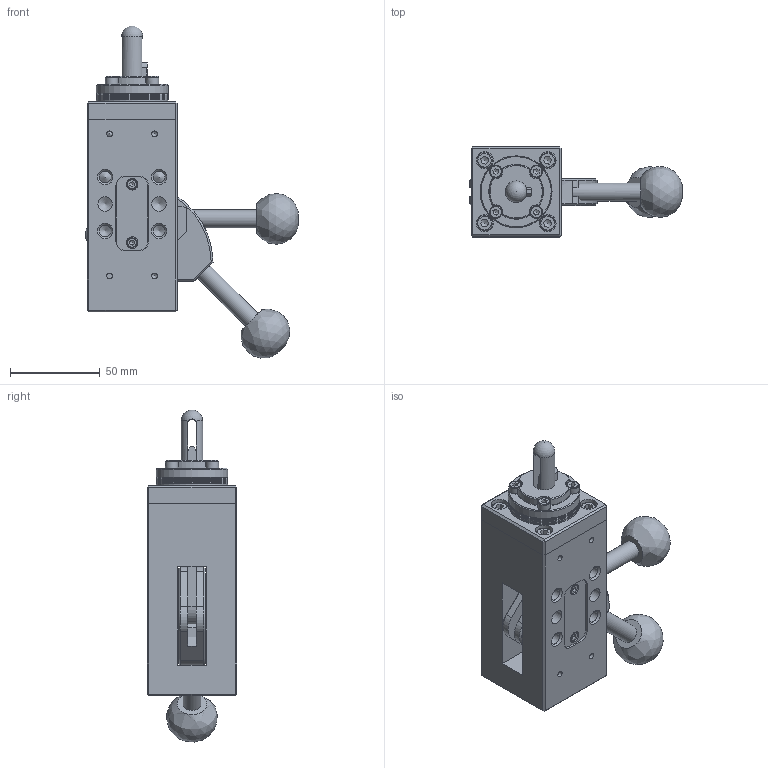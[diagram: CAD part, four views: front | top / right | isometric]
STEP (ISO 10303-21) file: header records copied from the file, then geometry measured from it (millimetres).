
FILE_DESCRIPTION(/* description */ (''),/* implementation_level */ '2;1');
FILE_NAME(/* name */ 'S:\Tom\INVENTOR FILES\AUTOMOTIVE\UNDERBODY CLAMPS\XPCB\SIMPLIFIED MODELS\STEP\XPCB-12-02-NS.stp',/* time_stamp */ '2021-06-08T09:58:37+01:00',/* author */ ('RWilson'),/* organization */ (''),/* preprocessor_version */ 'ST-DEVELOPER v18.1',/* originating_system */ 'Autodesk Inventor 2021',/* authorisation */ '');
FILE_SCHEMA (('AUTOMOTIVE_DESIGN { 1 0 10303 214 3 1 1 }'));
Length unit declared in the file: millimetre
Products named in the file (9): XPCB-12-02; XPCB - 12MM CLAMPING RING & PIN; XPCB - BODY; XPCB - HANDLE; XPCB - HOOK; XPCB - TOP PLATE; XPCB - 1MM SHIM; XPCB - 0.5MM SHIM; XPCB - BLANKING COVER
Assembly tree (13 placements, depth 2):
  XPCB-12-02
    XPCB - 12MM CLAMPING RING & PIN
    XPCB - BODY
    XPCB - HANDLE  x2
    XPCB - HOOK
    XPCB - TOP PLATE
    XPCB - 0.5MM SHIM  x2
    XPCB - 1MM SHIM  x3
    XPCB - BLANKING COVER  x2
Bounding box: 118.38 x 50 x 184.64 mm (x, y, z)
Volume: 334898.5 mm3; surface area: 101325.7 mm2
Topology: 13 solids, 23 shells, 525 faces, 1389 edges, 935 vertices
Faces by surface type: plane 258, cylinder 144, cone 104, torus 16, bspline 2, sphere 1
Full cylindrical faces by diameter (mm): 2.459 x4, 3 x8, 3.2 x4, 3.242 x8, 4.917 x3, 5.5 x4, 6 x3, 6.5 x4, 6.6 x3, 6.647 x12, 7 x4, 8 x6, 8.376 x2, 8.5 x4, 9.5 x4, 10 x5, 40 x6
Entity records: 13183 total; most frequent: CARTESIAN_POINT 2567, DIRECTION 2236, ORIENTED_EDGE 2104, EDGE_CURVE 1052, AXIS2_PLACEMENT_3D 853, VERTEX_POINT 741, LINE 530, VECTOR 530
